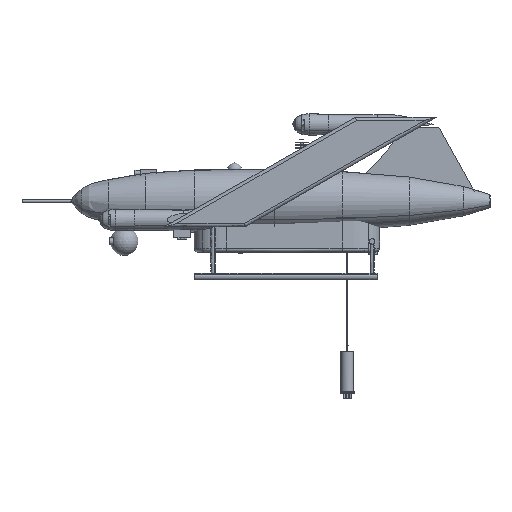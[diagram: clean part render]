
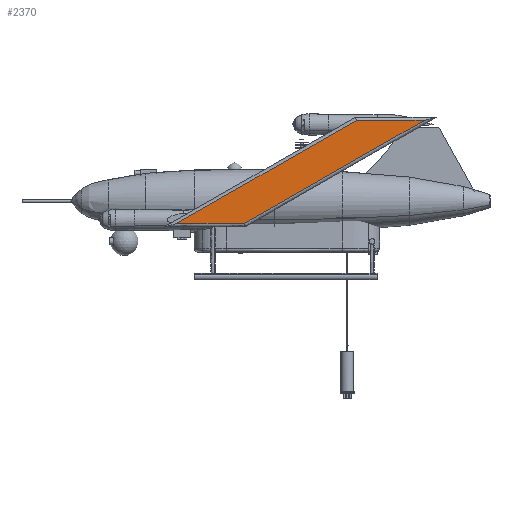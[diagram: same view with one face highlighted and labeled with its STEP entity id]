
A CAD part, left-side view. The second image highlights one B-rep face of the part: STEP entity #2370.
In plain terms, the highlighted planar face has unit normal (-1, 0, 0).
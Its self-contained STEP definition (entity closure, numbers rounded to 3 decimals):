
#12=DIRECTION('',(1.0,0.0,0.0));
#20=DIRECTION('',(0.0,1.0,0.0));
#742=DIRECTION('',(0.0,-1.0,0.0));
#2012=VECTOR('',#20,251.742);
#2051=DIRECTION('',(0.0,0.868,-0.497));
#2052=VECTOR('',#2051,770.124);
#2089=VECTOR('',#742,251.742);
#2116=DIRECTION('',(0.0,-0.868,0.497));
#2117=VECTOR('',#2116,770.124);
#2238=CARTESIAN_POINT('',(-1528.0,364.937,-83.0));
#2242=VERTEX_POINT('',#2238);
#2255=CARTESIAN_POINT('',(-1528.0,113.196,-83.0));
#2257=VERTEX_POINT('',#2255);
#2260=LINE('',#2255,#2012);
#2261=EDGE_CURVE('',#2257,#2242,#2260,.T.);
#2292=CARTESIAN_POINT('',(-1528.0,-554.937,300.0));
#2293=VERTEX_POINT('',#2292);
#2296=LINE('',#2292,#2052);
#2297=EDGE_CURVE('',#2293,#2257,#2296,.T.);
#2326=CARTESIAN_POINT('',(-1528.0,-303.196,300.0));
#2328=VERTEX_POINT('',#2326);
#2331=LINE('',#2326,#2089);
#2332=EDGE_CURVE('',#2328,#2293,#2331,.T.);
#2355=LINE('',#2238,#2117);
#2356=EDGE_CURVE('',#2242,#2328,#2355,.T.);
#2361=CARTESIAN_POINT('',(-1528.0,410.0,312.0));
#2362=AXIS2_PLACEMENT_3D('',#2361,#12,#742);
#2363=PLANE('',#2362);
#2364=ORIENTED_EDGE('',*,*,#2261,.T.);
#2365=ORIENTED_EDGE('',*,*,#2297,.T.);
#2366=ORIENTED_EDGE('',*,*,#2332,.T.);
#2367=ORIENTED_EDGE('',*,*,#2356,.T.);
#2368=EDGE_LOOP('',(#2367,#2366,#2365,#2364));
#2369=FACE_BOUND('',#2368,.F.);
#2370=ADVANCED_FACE('',(#2369),#2363,.F.);
